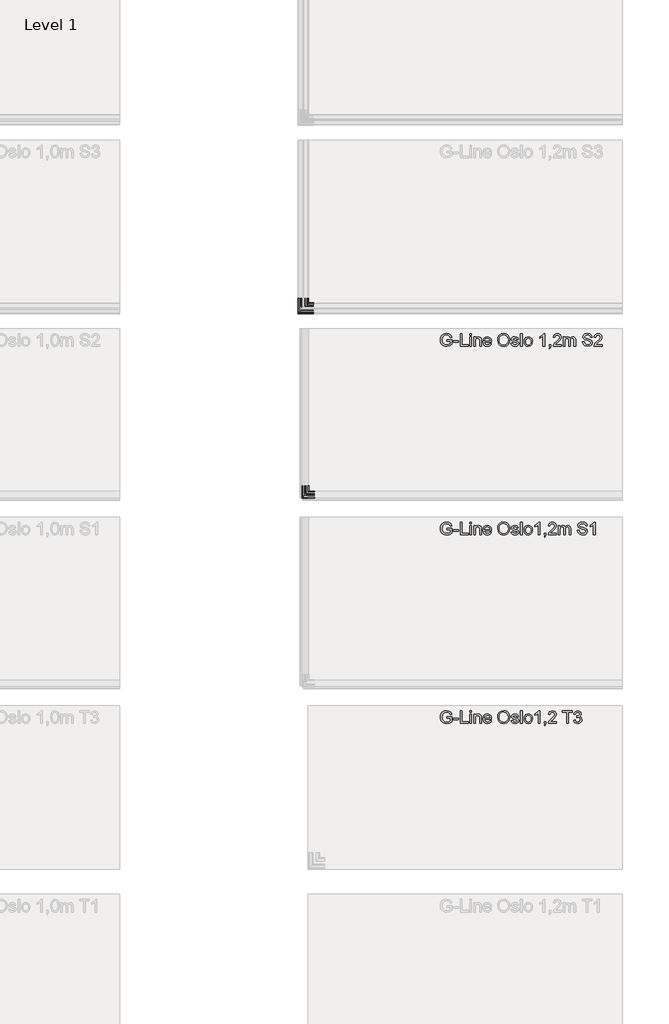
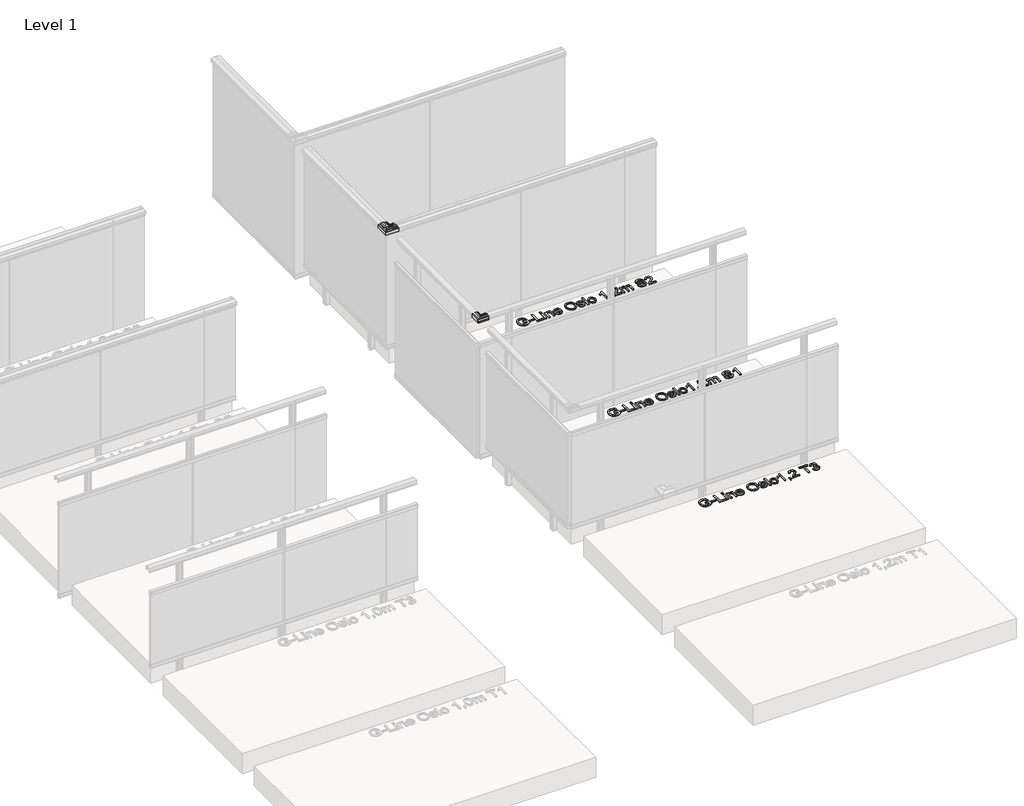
# One storey, part 62 of 66: 5 proxies.
"""IFC4 building model written with IfcOpenShell, lengths in millimetres."""

from ifc_helpers import new_model, si_unit, origin, origin_with_axes, place, context, project, spatial, polyline, outline, extrude, transform, mapped, element, save
from components import generic_models_029e0633, generic_models_224f447f

model = new_model("IFC4")

# Units and contexts
model_context = context("Model", 3, world=origin())
ifc_project = project(units=[si_unit("LENGTHUNIT", "METRE", prefix="MILLI")], contexts=[model_context])

# Site, building, storey
site = spatial("IfcSite", under=ifc_project)
building = spatial("IfcBuilding", under=site)
storey = spatial("IfcBuildingStorey", under=building, Name="Level 1", Elevation=0.0)

# Proxies
placement = place(None, origin())
generic_models_shape = generic_models_029e0633(model_context)
element("IfcBuildingElementProxy", 1, Name="Innore top rail 51x43 corner element : Innore top rail 51x43 element", ObjectType="Innore top rail 51x43 corner element : Innore top rail 51x43 element", at=placement, inside=storey, context=model_context, shape_type="MappedRepresentation", body=[
    mapped(generic_models_shape, transform((8483.61192, 14108.9644424, 1200.0), x_axis=(0.0, -1.0, 0.0), y_axis=(1.0, 0.0, 0.0), z_axis=(0.0, 0.0, 1.0))),
])
generic_models_2_shape = generic_models_224f447f(model_context)
element("IfcBuildingElementProxy", 2, Name="Innore top rail 81x35 corner element : Innore top rail 81x35 element", ObjectType="Innore top rail 81x35 corner element : Innore top rail 81x35 element", at=placement, inside=storey, context=model_context, shape_type="MappedRepresentation", body=[
    mapped(generic_models_2_shape, transform((8465.4055183, 15591.2640182, 1200.0), x_axis=(0.0, -1.0, 0.0), y_axis=(1.0, 0.0, 0.0), z_axis=(0.0, 0.0, 1.0))),
])
element("IfcBuildingElementProxy", 3, Name="100mm Arial", ObjectType="100mm Arial", at=placement, inside=storey, context=model_context, shape_type="SweptSolid", body=[
    extrude(outline(polyline([(9608.6537991, 12329.5293902), (9608.6537991, 12342.086429), (9649.4641751, 12342.086429), (9649.4641751, 12304.53794), (9629.3165045, 12292.6921398), (9608.0161369, 12288.7190142), (9593.9293222, 12290.2978411), (9581.1975395, 12295.0343218), (9570.6209321, 12302.7629094), (9562.9996435, 12313.318057), (9558.3919215, 12325.979329), (9556.8560141, 12340.0262898), (9558.3857901, 12354.1744182), (9562.975118, 12367.3353966), (9570.4339255, 12378.3749221), (9580.5721401, 12386.158692), (9592.9207124, 12390.7756111), (9607.0105928, 12392.3145841), (9626.6554914, 12388.7461287), (9640.4265407, 12378.8133149), (9648.0171726, 12362.1973114), (9636.4411524, 12358.9354244), (9630.714456, 12370.5482327), (9620.928795, 12377.243685), (9606.8143891, 12379.7575453), (9590.7379459, 12377.0474813), (9579.7995879, 12369.935096), (9573.3371275, 12360.2597996), (9569.4130529, 12340.5413246), (9574.1342052, 12318.6523459), (9587.8684663, 12305.5557469), (9607.0105928, 12301.276053), (9624.190682, 12304.5011518), (9636.9071363, 12311.3805451), (9636.9071363, 12329.5293902), (9608.6537991, 12329.5293902)])), origin_with_axes(), (0.0, 0.0, 1.0), 10.0),
    extrude(outline(polyline([(9662.0212138, 12320.1116112), (9662.0212138, 12332.6686499), (9701.26196, 12332.6686499), (9701.26196, 12320.1116112), (9662.0212138, 12320.1116112)])), origin_with_axes(), (0.0, 0.0, 1.0), 10.0),
    extrude(outline(polyline([(9716.9582584, 12290.2886441), (9716.9582584, 12390.7449542), (9729.5152972, 12390.7449542), (9729.5152972, 12302.8456829), (9779.7434523, 12302.8456829), (9779.7434523, 12290.2886441), (9716.9582584, 12290.2886441)])), origin_with_axes(), (0.0, 0.0, 1.0), 10.0),
    extrude(outline(polyline([(9792.3004911, 12378.1879155), (9792.3004911, 12390.7449542), (9804.8575298, 12390.7449542), (9804.8575298, 12378.1879155), (9792.3004911, 12378.1879155)])), origin_with_axes(), (0.0, 0.0, 1.0), 10.0),
    extrude(outline(polyline([(9792.3004911, 12290.2886441), (9792.3004911, 12364.0612468), (9804.8575298, 12364.0612468), (9804.8575298, 12290.2886441), (9792.3004911, 12290.2886441)])), origin_with_axes(), (0.0, 0.0, 1.0), 10.0),
    extrude(outline(polyline([(9823.693088, 12290.2886441), (9823.693088, 12364.0612468), (9836.2501268, 12364.0612468), (9836.2501268, 12353.760551), (9845.8518468, 12362.6632953), (9858.9607086, 12365.6308767), (9870.8187716, 12363.2396437), (9878.9121755, 12356.9611243), (9882.6768345, 12347.7272863), (9883.3390221, 12335.5871804), (9883.3390221, 12290.2886441), (9870.7819834, 12290.2886441), (9870.7819834, 12333.8949232), (9869.3349809, 12345.0049595), (9864.2214211, 12350.8788087), (9855.6007197, 12353.0738379), (9841.9768231, 12348.1442192), (9837.6818009, 12341.0011771), (9836.2501268, 12329.4312884), (9836.2501268, 12290.2886441), (9823.693088, 12290.2886441)])), origin_with_axes(), (0.0, 0.0, 1.0), 10.0),
    extrude(outline(polyline([(9952.2555826, 12312.2634619), (9964.5673667, 12310.6938321), (9960.1313229, 12301.4170744), (9953.0526602, 12294.4824988), (9943.490794, 12290.1598854), (9931.6051399, 12288.7190142), (9916.871466, 12291.2052834), (9905.5345692, 12298.6640908), (9898.305688, 12310.6110586), (9895.8960609, 12326.5618088), (9898.3302134, 12343.0490536), (9905.632671, 12355.3792318), (9916.8162837, 12363.0679655), (9930.8939014, 12365.6308767), (9944.5331263, 12363.0740968), (9955.4316305, 12355.4037572), (9962.5777382, 12343.0981045), (9964.9597741, 12326.6353852), (9964.8861977, 12323.2508709), (9908.4530997, 12323.2508709), (9910.6266691, 12313.8514859), (9915.6758495, 12306.9414357), (9922.9629787, 12302.6923987), (9931.8503946, 12301.276053), (9944.1621787, 12303.9002779), (9952.2555826, 12312.2634619)]), holes=[polyline([(9908.4530997, 12335.8079096), (9952.4027354, 12335.8079096), (9947.3750148, 12347.187726), (9940.0541631, 12351.6023099), (9930.8448504, 12353.0738379), (9915.3815439, 12348.3772111), (9910.5163045, 12342.8865723), (9908.4530997, 12335.8079096)])]), origin_with_axes(), (0.0, 0.0, 1.0), 10.0),
    extrude(outline(polyline([(10013.6182994, 12339.192424), (10016.9660255, 12361.4063651), (10027.009204, 12378.2124409), (10042.3437518, 12388.7890483), (10061.5655861, 12392.3145841), (10074.7418929, 12390.6591151), (10086.5570363, 12385.6927082), (10096.3672228, 12377.7648512), (10103.528659, 12367.225032), (10107.9064547, 12354.5821541), (10109.36572, 12340.3451209), (10107.8298126, 12325.9180153), (10103.2220907, 12313.0973278), (10095.7970057, 12302.5391145), (10085.8090095, 12294.8994318), (10074.0950337, 12290.2641186), (10061.4920097, 12288.7190142), (10048.1133678, 12290.4265998), (10036.2307793, 12295.5493566), (10026.4451183, 12303.6243664), (10019.3572585, 12314.188711), (10013.6182994, 12339.192424)]), holes=[polyline([(10026.1753381, 12339.0697966), (10028.6861327, 12323.3551041), (10036.2185166, 12311.3805451), (10047.540085, 12303.802176), (10061.4184333, 12301.276053), (10075.4991166, 12303.8267015), (10086.8390791, 12311.478647), (10094.3162807, 12323.8210879), (10096.8086812, 12340.4432228), (10092.5412501, 12361.1672418), (10080.0700504, 12374.8892402), (10061.6391625, 12379.7575453), (10048.1317619, 12377.4122976), (10036.6477123, 12370.3765544), (10028.7934317, 12357.8593695), (10026.1753381, 12339.0697966)])]), origin_with_axes(), (0.0, 0.0, 1.0), 10.0),
    extrude(outline(polyline([(10120.3531289, 12312.2634619), (10132.9101677, 12313.8330918), (10138.7227032, 12304.5134146), (10152.0400314, 12301.276053), (10164.8423248, 12304.2436344), (10169.0116541, 12311.2088669), (10164.8177994, 12316.8497241), (10151.8928786, 12320.4304422), (10132.9837441, 12326.5740715), (10124.7309246, 12333.7477704), (10121.9227587, 12343.876788), (10124.1791016, 12353.2332535), (10130.3349937, 12360.3824269), (10138.318033, 12364.098035), (10149.1215009, 12365.6308767), (10164.4008665, 12363.1660673), (10174.1129511, 12356.4951405), (10178.4294332, 12345.2256887), (10165.8723944, 12343.6560589), (10161.1512422, 12350.5845031), (10150.1025196, 12353.0738379), (10138.0850411, 12350.6948677), (10134.4797975, 12345.1521123), (10135.975851, 12341.4978178), (10140.660215, 12338.7264401), (10151.4759457, 12336.0531643), (10169.9068336, 12330.1425269), (10178.4662214, 12323.4470746), (10181.5686929, 12312.5332421), (10177.9266611, 12300.5157635), (10167.4174988, 12291.7969603), (10151.8683531, 12288.7190142), (10139.2070811, 12290.202805), (10129.9671117, 12294.6541771), (10123.7989569, 12302.0240797), (10120.3531289, 12312.2634619)])), origin_with_axes(), (0.0, 0.0, 1.0), 10.0),
    extrude(outline(polyline([(10195.6953615, 12290.2886441), (10195.6953615, 12390.7449542), (10208.2524003, 12390.7449542), (10208.2524003, 12290.2886441), (10195.6953615, 12290.2886441)])), origin_with_axes(), (0.0, 0.0, 1.0), 10.0),
    extrude(outline(polyline([(10223.9486987, 12327.1749455), (10226.6648941, 12344.9620399), (10234.8134803, 12357.4638964), (10244.8811843, 12363.5891316), (10256.935451, 12365.6308767), (10270.1270862, 12363.1446075), (10280.6638397, 12355.6858001), (10287.5708241, 12343.8430655), (10289.8731523, 12328.2050151), (10285.8019249, 12305.8623152), (10273.9438619, 12293.2194373), (10256.935451, 12288.7190142), (10243.5844002, 12291.1960863), (10233.0599095, 12298.6273026), (10226.2265014, 12310.7183575), (10223.9486987, 12327.1749455)]), holes=[polyline([(10236.5057375, 12327.1994709), (10237.9588714, 12315.834983), (10242.318273, 12307.7385134), (10248.8788353, 12302.8916681), (10256.935451, 12301.276053), (10264.9552785, 12302.9008652), (10271.503578, 12307.7753016), (10275.8629796, 12315.9790701), (10277.3161135, 12327.5918784), (10275.8537826, 12338.6252726), (10271.4667898, 12346.6113775), (10264.9092932, 12351.4582228), (10256.935451, 12353.0738379), (10248.8788353, 12351.4643542), (10242.318273, 12346.635903), (10237.9588714, 12338.5578275), (10236.5057375, 12327.1994709)])]), origin_with_axes(), (0.0, 0.0, 1.0), 10.0),
    extrude(outline(polyline([(10347.9494566, 12290.2886441), (10335.3924178, 12290.2886441), (10335.3924178, 12368.5739327), (10323.4975666, 12360.100384), (10310.2783403, 12353.760551), (10310.2783403, 12365.6308767), (10328.6847028, 12377.3785751), (10339.8560527, 12390.7449542), (10347.9494566, 12390.7449542), (10347.9494566, 12290.2886441)])), origin_with_axes(), (0.0, 0.0, 1.0), 10.0),
    extrude(outline(polyline([(10384.050943, 12290.2886441), (10384.050943, 12302.8456829), (10396.6079818, 12302.8456829), (10396.6079818, 12290.2886441), (10394.3516389, 12277.4495625), (10387.1902027, 12269.8834561), (10384.050943, 12274.5923456), (10388.6617307, 12280.0124737), (10390.304937, 12290.2886441), (10384.050943, 12290.2886441)])), origin_with_axes(), (0.0, 0.0, 1.0), 10.0),
    extrude(outline(polyline([(10481.3679935, 12302.8456829), (10481.3679935, 12290.2886441), (10415.44354, 12290.2886441), (10416.7924406, 12298.9461337), (10424.4198606, 12312.2757247), (10440.1406846, 12326.8315889), (10461.8211968, 12347.7518117), (10467.2413249, 12361.9765822), (10462.1277651, 12373.4912887), (10448.7736487, 12378.1879155), (10434.8554466, 12373.6016533), (10429.5702086, 12360.9219872), (10417.0131698, 12362.491617), (10420.0573933, 12374.6378542), (10426.6394153, 12383.5099417), (10436.4158794, 12388.9362011), (10449.0434289, 12390.7449542), (10461.7629488, 12388.733866), (10471.5210188, 12382.7006013), (10477.7290274, 12373.6874924), (10479.7983636, 12362.7368717), (10477.5665462, 12350.8297578), (10470.1475926, 12338.5179737), (10452.1581631, 12321.313359), (10437.7126634, 12309.2345668), (10432.0472807, 12302.8456829), (10481.3679935, 12302.8456829)])), origin_with_axes(), (0.0, 0.0, 1.0), 10.0),
    extrude(outline(polyline([(10562.9887455, 12290.2886441), (10562.9887455, 12378.1879155), (10530.0265187, 12378.1879155), (10530.0265187, 12390.7449542), (10608.508011, 12390.7449542), (10608.508011, 12378.1879155), (10575.5457843, 12378.1879155), (10575.5457843, 12290.2886441), (10562.9887455, 12290.2886441)])), origin_with_axes(), (0.0, 0.0, 1.0), 10.0),
    extrude(outline(polyline([(10617.9257901, 12316.9723515), (10630.4828289, 12318.5419813), (10637.4112731, 12305.322755), (10650.3729821, 12301.276053), (10658.9814208, 12302.6678732), (10665.6278221, 12306.8433339), (10671.2932049, 12320.626646), (10665.6768731, 12333.6128804), (10651.4030517, 12338.7509656), (10642.5984092, 12337.3775395), (10643.9963608, 12349.9345782), (10646.0074491, 12349.7874254), (10660.256745, 12353.392669), (10665.0024228, 12357.9666685), (10666.5843153, 12364.4781798), (10661.9980531, 12374.300629), (10650.1767783, 12378.1879155), (10638.2083508, 12374.2638408), (10632.0524587, 12362.491617), (10619.49542, 12364.0612468), (10623.192634, 12375.33683), (10629.7715903, 12383.7551963), (10638.7724365, 12388.9975148), (10649.73532, 12390.7449542), (10664.8797954, 12387.2991262), (10675.4747969, 12377.8813471), (10679.1413541, 12365.2139438), (10675.6587379, 12353.6379237), (10665.358042, 12345.3237906), (10679.0432522, 12336.7398773), (10683.8502436, 12320.4059168), (10681.4467479, 12308.167709), (10674.2362608, 12297.9405896), (10663.3530851, 12291.0244081), (10649.9315237, 12288.7190142), (10637.7914178, 12290.6871829), (10627.9076549, 12296.5916889), (10621.034393, 12305.6231919), (10617.9257901, 12316.9723515)])), origin_with_axes(), (0.0, 0.0, 1.0), 10.0),
])
element("IfcBuildingElementProxy", 4, Name="100mm Arial", ObjectType="100mm Arial", at=placement, inside=storey, context=model_context, shape_type="SweptSolid", body=[
    extrude(outline(polyline([(9608.6537991, 13829.5293902), (9608.6537991, 13842.086429), (9649.4641751, 13842.086429), (9649.4641751, 13804.53794), (9629.3165045, 13792.6921398), (9608.0161369, 13788.7190142), (9593.9293222, 13790.2978411), (9581.1975395, 13795.0343218), (9570.6209321, 13802.7629094), (9562.9996435, 13813.318057), (9558.3919215, 13825.979329), (9556.8560141, 13840.0262898), (9558.3857901, 13854.1744182), (9562.975118, 13867.3353966), (9570.4339255, 13878.3749221), (9580.5721401, 13886.158692), (9592.9207124, 13890.7756111), (9607.0105928, 13892.3145841), (9626.6554914, 13888.7461287), (9640.4265407, 13878.8133149), (9648.0171726, 13862.1973114), (9636.4411524, 13858.9354244), (9630.714456, 13870.5482327), (9620.928795, 13877.243685), (9606.8143891, 13879.7575453), (9590.7379459, 13877.0474813), (9579.7995879, 13869.935096), (9573.3371275, 13860.2597996), (9569.4130529, 13840.5413246), (9574.1342052, 13818.6523459), (9587.8684663, 13805.5557469), (9607.0105928, 13801.276053), (9624.190682, 13804.5011518), (9636.9071363, 13811.3805451), (9636.9071363, 13829.5293902), (9608.6537991, 13829.5293902)])), origin_with_axes(), (0.0, 0.0, 1.0), 10.0),
    extrude(outline(polyline([(9662.0212138, 13820.1116112), (9662.0212138, 13832.6686499), (9701.26196, 13832.6686499), (9701.26196, 13820.1116112), (9662.0212138, 13820.1116112)])), origin_with_axes(), (0.0, 0.0, 1.0), 10.0),
    extrude(outline(polyline([(9716.9582584, 13790.2886441), (9716.9582584, 13890.7449542), (9729.5152972, 13890.7449542), (9729.5152972, 13802.8456829), (9779.7434523, 13802.8456829), (9779.7434523, 13790.2886441), (9716.9582584, 13790.2886441)])), origin_with_axes(), (0.0, 0.0, 1.0), 10.0),
    extrude(outline(polyline([(9792.3004911, 13878.1879155), (9792.3004911, 13890.7449542), (9804.8575298, 13890.7449542), (9804.8575298, 13878.1879155), (9792.3004911, 13878.1879155)])), origin_with_axes(), (0.0, 0.0, 1.0), 10.0),
    extrude(outline(polyline([(9792.3004911, 13790.2886441), (9792.3004911, 13864.0612468), (9804.8575298, 13864.0612468), (9804.8575298, 13790.2886441), (9792.3004911, 13790.2886441)])), origin_with_axes(), (0.0, 0.0, 1.0), 10.0),
    extrude(outline(polyline([(9823.693088, 13790.2886441), (9823.693088, 13864.0612468), (9836.2501268, 13864.0612468), (9836.2501268, 13853.760551), (9845.8518468, 13862.6632953), (9858.9607086, 13865.6308767), (9870.8187716, 13863.2396437), (9878.9121755, 13856.9611243), (9882.6768345, 13847.7272863), (9883.3390221, 13835.5871804), (9883.3390221, 13790.2886441), (9870.7819834, 13790.2886441), (9870.7819834, 13833.8949232), (9869.3349809, 13845.0049595), (9864.2214211, 13850.8788087), (9855.6007197, 13853.0738379), (9841.9768231, 13848.1442192), (9837.6818009, 13841.0011771), (9836.2501268, 13829.4312884), (9836.2501268, 13790.2886441), (9823.693088, 13790.2886441)])), origin_with_axes(), (0.0, 0.0, 1.0), 10.0),
    extrude(outline(polyline([(9952.2555826, 13812.2634619), (9964.5673667, 13810.6938321), (9960.1313229, 13801.4170744), (9953.0526602, 13794.4824988), (9943.490794, 13790.1598854), (9931.6051399, 13788.7190142), (9916.871466, 13791.2052834), (9905.5345692, 13798.6640908), (9898.305688, 13810.6110586), (9895.8960609, 13826.5618088), (9898.3302134, 13843.0490536), (9905.632671, 13855.3792318), (9916.8162837, 13863.0679655), (9930.8939014, 13865.6308767), (9944.5331263, 13863.0740968), (9955.4316305, 13855.4037572), (9962.5777382, 13843.0981045), (9964.9597741, 13826.6353852), (9964.8861977, 13823.2508709), (9908.4530997, 13823.2508709), (9910.6266691, 13813.8514859), (9915.6758495, 13806.9414357), (9922.9629787, 13802.6923987), (9931.8503946, 13801.276053), (9944.1621787, 13803.9002779), (9952.2555826, 13812.2634619)]), holes=[polyline([(9908.4530997, 13835.8079096), (9952.4027354, 13835.8079096), (9947.3750148, 13847.187726), (9940.0541631, 13851.6023099), (9930.8448504, 13853.0738379), (9915.3815439, 13848.3772111), (9910.5163045, 13842.8865723), (9908.4530997, 13835.8079096)])]), origin_with_axes(), (0.0, 0.0, 1.0), 10.0),
    extrude(outline(polyline([(10013.6182994, 13839.192424), (10016.9660255, 13861.4063651), (10027.009204, 13878.2124409), (10042.3437518, 13888.7890483), (10061.5655861, 13892.3145841), (10074.7418929, 13890.6591151), (10086.5570363, 13885.6927082), (10096.3672228, 13877.7648512), (10103.528659, 13867.225032), (10107.9064547, 13854.5821541), (10109.36572, 13840.3451209), (10107.8298126, 13825.9180153), (10103.2220907, 13813.0973278), (10095.7970057, 13802.5391145), (10085.8090095, 13794.8994318), (10074.0950337, 13790.2641186), (10061.4920097, 13788.7190142), (10048.1133678, 13790.4265998), (10036.2307793, 13795.5493566), (10026.4451183, 13803.6243664), (10019.3572585, 13814.188711), (10013.6182994, 13839.192424)]), holes=[polyline([(10026.1753381, 13839.0697966), (10028.6861327, 13823.3551041), (10036.2185166, 13811.3805451), (10047.540085, 13803.802176), (10061.4184333, 13801.276053), (10075.4991166, 13803.8267015), (10086.8390791, 13811.478647), (10094.3162807, 13823.8210879), (10096.8086812, 13840.4432228), (10092.5412501, 13861.1672418), (10080.0700504, 13874.8892402), (10061.6391625, 13879.7575453), (10048.1317619, 13877.4122976), (10036.6477123, 13870.3765544), (10028.7934317, 13857.8593695), (10026.1753381, 13839.0697966)])]), origin_with_axes(), (0.0, 0.0, 1.0), 10.0),
    extrude(outline(polyline([(10120.3531289, 13812.2634619), (10132.9101677, 13813.8330918), (10138.7227032, 13804.5134146), (10152.0400314, 13801.276053), (10164.8423248, 13804.2436344), (10169.0116541, 13811.2088669), (10164.8177994, 13816.8497241), (10151.8928786, 13820.4304422), (10132.9837441, 13826.5740715), (10124.7309246, 13833.7477704), (10121.9227587, 13843.876788), (10124.1791016, 13853.2332535), (10130.3349937, 13860.3824269), (10138.318033, 13864.098035), (10149.1215009, 13865.6308767), (10164.4008665, 13863.1660673), (10174.1129511, 13856.4951405), (10178.4294332, 13845.2256887), (10165.8723944, 13843.6560589), (10161.1512422, 13850.5845031), (10150.1025196, 13853.0738379), (10138.0850411, 13850.6948677), (10134.4797975, 13845.1521123), (10135.975851, 13841.4978178), (10140.660215, 13838.7264401), (10151.4759457, 13836.0531643), (10169.9068336, 13830.1425269), (10178.4662214, 13823.4470746), (10181.5686929, 13812.5332421), (10177.9266611, 13800.5157635), (10167.4174988, 13791.7969603), (10151.8683531, 13788.7190142), (10139.2070811, 13790.202805), (10129.9671117, 13794.6541771), (10123.7989569, 13802.0240797), (10120.3531289, 13812.2634619)])), origin_with_axes(), (0.0, 0.0, 1.0), 10.0),
    extrude(outline(polyline([(10195.6953615, 13790.2886441), (10195.6953615, 13890.7449542), (10208.2524003, 13890.7449542), (10208.2524003, 13790.2886441), (10195.6953615, 13790.2886441)])), origin_with_axes(), (0.0, 0.0, 1.0), 10.0),
    extrude(outline(polyline([(10223.9486987, 13827.1749455), (10226.6648941, 13844.9620399), (10234.8134803, 13857.4638964), (10244.8811843, 13863.5891316), (10256.935451, 13865.6308767), (10270.1270862, 13863.1446075), (10280.6638397, 13855.6858001), (10287.5708241, 13843.8430655), (10289.8731523, 13828.2050151), (10285.8019249, 13805.8623152), (10273.9438619, 13793.2194373), (10256.935451, 13788.7190142), (10243.5844002, 13791.1960863), (10233.0599095, 13798.6273026), (10226.2265014, 13810.7183575), (10223.9486987, 13827.1749455)]), holes=[polyline([(10236.5057375, 13827.1994709), (10237.9588714, 13815.834983), (10242.318273, 13807.7385134), (10248.8788353, 13802.8916681), (10256.935451, 13801.276053), (10264.9552785, 13802.9008652), (10271.503578, 13807.7753016), (10275.8629796, 13815.9790701), (10277.3161135, 13827.5918784), (10275.8537826, 13838.6252726), (10271.4667898, 13846.6113775), (10264.9092932, 13851.4582228), (10256.935451, 13853.0738379), (10248.8788353, 13851.4643542), (10242.318273, 13846.635903), (10237.9588714, 13838.5578275), (10236.5057375, 13827.1994709)])]), origin_with_axes(), (0.0, 0.0, 1.0), 10.0),
    extrude(outline(polyline([(10347.9494566, 13790.2886441), (10335.3924178, 13790.2886441), (10335.3924178, 13868.5739327), (10323.4975666, 13860.100384), (10310.2783403, 13853.760551), (10310.2783403, 13865.6308767), (10328.6847028, 13877.3785751), (10339.8560527, 13890.7449542), (10347.9494566, 13890.7449542), (10347.9494566, 13790.2886441)])), origin_with_axes(), (0.0, 0.0, 1.0), 10.0),
    extrude(outline(polyline([(10384.050943, 13790.2886441), (10384.050943, 13802.8456829), (10396.6079818, 13802.8456829), (10396.6079818, 13790.2886441), (10394.3516389, 13777.4495625), (10387.1902027, 13769.8834561), (10384.050943, 13774.5923456), (10388.6617307, 13780.0124737), (10390.304937, 13790.2886441), (10384.050943, 13790.2886441)])), origin_with_axes(), (0.0, 0.0, 1.0), 10.0),
    extrude(outline(polyline([(10481.3679935, 13802.8456829), (10481.3679935, 13790.2886441), (10415.44354, 13790.2886441), (10416.7924406, 13798.9461337), (10424.4198606, 13812.2757247), (10440.1406846, 13826.8315889), (10461.8211968, 13847.7518117), (10467.2413249, 13861.9765822), (10462.1277651, 13873.4912887), (10448.7736487, 13878.1879155), (10434.8554466, 13873.6016533), (10429.5702086, 13860.9219872), (10417.0131698, 13862.491617), (10420.0573933, 13874.6378542), (10426.6394153, 13883.5099417), (10436.4158794, 13888.9362011), (10449.0434289, 13890.7449542), (10461.7629488, 13888.733866), (10471.5210188, 13882.7006013), (10477.7290274, 13873.6874924), (10479.7983636, 13862.7368717), (10477.5665462, 13850.8297578), (10470.1475926, 13838.5179737), (10452.1581631, 13821.313359), (10437.7126634, 13809.2345668), (10432.0472807, 13802.8456829), (10481.3679935, 13802.8456829)])), origin_with_axes(), (0.0, 0.0, 1.0), 10.0),
    extrude(outline(polyline([(10497.064292, 13790.2886441), (10497.064292, 13864.0612468), (10509.6213307, 13864.0612468), (10509.6213307, 13851.921141), (10518.2542949, 13861.8662176), (10530.5415535, 13865.6308767), (10543.1231178, 13861.7926412), (10550.0392993, 13851.0382242), (10559.8372231, 13861.9827136), (10572.2103208, 13865.6308767), (10581.6495597, 13864.1133635), (10588.6301206, 13859.5608238), (10592.9435369, 13851.8506303), (10594.3813424, 13840.8601557), (10594.3813424, 13790.2886441), (10581.8243036, 13790.2886441), (10581.8243036, 13835.4645531), (10580.659344, 13845.94919), (10576.4409638, 13851.1118006), (10569.2672649, 13853.0738379), (10556.9186926, 13848.0461173), (10553.2306756, 13841.5039492), (10552.0013366, 13831.9328859), (10552.0013366, 13790.2886441), (10539.4442978, 13790.2886441), (10539.4442978, 13836.8625047), (10536.53803, 13849.027136), (10527.0098864, 13853.0738379), (10517.7147346, 13850.3760366), (10511.5343171, 13842.4788365), (10509.6213307, 13827.4937765), (10509.6213307, 13790.2886441), (10497.064292, 13790.2886441)])), origin_with_axes(), (0.0, 0.0, 1.0), 10.0),
    extrude(outline(polyline([(10649.318387, 13824.8205007), (10661.8754258, 13824.8205007), (10665.9221277, 13812.2511992), (10675.8058907, 13804.3049481), (10690.864527, 13801.276053), (10703.9856515, 13803.5691841), (10712.4592001, 13809.872229), (10715.2428406, 13818.2967266), (10713.1581759, 13826.1326131), (10704.6233136, 13831.8347841), (10686.3395785, 13836.6295127), (10666.6578917, 13842.822193), (10655.9770511, 13852.1663957), (10652.4576467, 13864.649858), (10656.810917, 13878.8623658), (10669.5273713, 13888.8932815), (10688.1422003, 13892.3145841), (10708.007828, 13888.733866), (10721.2515798, 13878.2124409), (10726.2302495, 13862.491617), (10713.6732107, 13862.491617), (10711.3678169, 13869.984147), (10706.5608255, 13875.3920123), (10688.6327096, 13879.7575453), (10670.6555427, 13875.4410632), (10665.0146855, 13865.01774), (10669.0123365, 13856.3111995), (10689.5156264, 13849.2969161), (10711.7356989, 13842.9938713), (10723.8880674, 13832.8158027), (10727.7998793, 13818.6155577), (10723.2994563, 13803.5937096), (10710.35001, 13792.6308261), (10691.3550363, 13788.7190142), (10668.9264974, 13792.9373944), (10654.7385151, 13805.641586), (10649.318387, 13824.8205007)])), origin_with_axes(), (0.0, 0.0, 1.0), 10.0),
    extrude(outline(polyline([(10789.0154433, 13790.2886441), (10776.4584046, 13790.2886441), (10776.4584046, 13868.5739327), (10764.5635534, 13860.100384), (10751.344327, 13853.760551), (10751.344327, 13865.6308767), (10769.7506895, 13877.3785751), (10780.9220394, 13890.7449542), (10789.0154433, 13890.7449542), (10789.0154433, 13790.2886441)])), origin_with_axes(), (0.0, 0.0, 1.0), 10.0),
])
element("IfcBuildingElementProxy", 5, Name="100mm Arial", ObjectType="100mm Arial", at=placement, inside=storey, context=model_context, shape_type="SweptSolid", body=[
    extrude(outline(polyline([(9608.6537991, 15329.5293902), (9608.6537991, 15342.086429), (9649.4641751, 15342.086429), (9649.4641751, 15304.53794), (9629.3165045, 15292.6921398), (9608.0161369, 15288.7190142), (9593.9293222, 15290.2978411), (9581.1975395, 15295.0343218), (9570.6209321, 15302.7629094), (9562.9996435, 15313.318057), (9558.3919215, 15325.979329), (9556.8560141, 15340.0262898), (9558.3857901, 15354.1744182), (9562.975118, 15367.3353966), (9570.4339255, 15378.3749221), (9580.5721401, 15386.158692), (9592.9207124, 15390.7756111), (9607.0105928, 15392.3145841), (9626.6554914, 15388.7461287), (9640.4265407, 15378.8133149), (9648.0171726, 15362.1973114), (9636.4411524, 15358.9354244), (9630.714456, 15370.5482327), (9620.928795, 15377.243685), (9606.8143891, 15379.7575453), (9590.7379459, 15377.0474813), (9579.7995879, 15369.935096), (9573.3371275, 15360.2597996), (9569.4130529, 15340.5413246), (9574.1342052, 15318.6523459), (9587.8684663, 15305.5557469), (9607.0105928, 15301.276053), (9624.190682, 15304.5011518), (9636.9071363, 15311.3805451), (9636.9071363, 15329.5293902), (9608.6537991, 15329.5293902)])), origin_with_axes(), (0.0, 0.0, 1.0), 10.0),
    extrude(outline(polyline([(9662.0212138, 15320.1116112), (9662.0212138, 15332.6686499), (9701.26196, 15332.6686499), (9701.26196, 15320.1116112), (9662.0212138, 15320.1116112)])), origin_with_axes(), (0.0, 0.0, 1.0), 10.0),
    extrude(outline(polyline([(9716.9582584, 15290.2886441), (9716.9582584, 15390.7449542), (9729.5152972, 15390.7449542), (9729.5152972, 15302.8456829), (9779.7434523, 15302.8456829), (9779.7434523, 15290.2886441), (9716.9582584, 15290.2886441)])), origin_with_axes(), (0.0, 0.0, 1.0), 10.0),
    extrude(outline(polyline([(9792.3004911, 15378.1879155), (9792.3004911, 15390.7449542), (9804.8575298, 15390.7449542), (9804.8575298, 15378.1879155), (9792.3004911, 15378.1879155)])), origin_with_axes(), (0.0, 0.0, 1.0), 10.0),
    extrude(outline(polyline([(9792.3004911, 15290.2886441), (9792.3004911, 15364.0612468), (9804.8575298, 15364.0612468), (9804.8575298, 15290.2886441), (9792.3004911, 15290.2886441)])), origin_with_axes(), (0.0, 0.0, 1.0), 10.0),
    extrude(outline(polyline([(9823.693088, 15290.2886441), (9823.693088, 15364.0612468), (9836.2501268, 15364.0612468), (9836.2501268, 15353.760551), (9845.8518468, 15362.6632953), (9858.9607086, 15365.6308767), (9870.8187716, 15363.2396437), (9878.9121755, 15356.9611243), (9882.6768345, 15347.7272863), (9883.3390221, 15335.5871804), (9883.3390221, 15290.2886441), (9870.7819834, 15290.2886441), (9870.7819834, 15333.8949232), (9869.3349809, 15345.0049595), (9864.2214211, 15350.8788087), (9855.6007197, 15353.0738379), (9841.9768231, 15348.1442192), (9837.6818009, 15341.0011771), (9836.2501268, 15329.4312884), (9836.2501268, 15290.2886441), (9823.693088, 15290.2886441)])), origin_with_axes(), (0.0, 0.0, 1.0), 10.0),
    extrude(outline(polyline([(9952.2555826, 15312.2634619), (9964.5673667, 15310.6938321), (9960.1313229, 15301.4170744), (9953.0526602, 15294.4824988), (9943.490794, 15290.1598854), (9931.6051399, 15288.7190142), (9916.871466, 15291.2052834), (9905.5345692, 15298.6640908), (9898.305688, 15310.6110586), (9895.8960609, 15326.5618088), (9898.3302134, 15343.0490536), (9905.632671, 15355.3792318), (9916.8162837, 15363.0679655), (9930.8939014, 15365.6308767), (9944.5331263, 15363.0740968), (9955.4316305, 15355.4037572), (9962.5777382, 15343.0981045), (9964.9597741, 15326.6353852), (9964.8861977, 15323.2508709), (9908.4530997, 15323.2508709), (9910.6266691, 15313.8514859), (9915.6758495, 15306.9414357), (9922.9629787, 15302.6923987), (9931.8503946, 15301.276053), (9944.1621787, 15303.9002779), (9952.2555826, 15312.2634619)]), holes=[polyline([(9908.4530997, 15335.8079096), (9952.4027354, 15335.8079096), (9947.3750148, 15347.187726), (9940.0541631, 15351.6023099), (9930.8448504, 15353.0738379), (9915.3815439, 15348.3772111), (9910.5163045, 15342.8865723), (9908.4530997, 15335.8079096)])]), origin_with_axes(), (0.0, 0.0, 1.0), 10.0),
    extrude(outline(polyline([(10013.6182994, 15339.192424), (10016.9660255, 15361.4063651), (10027.009204, 15378.2124409), (10042.3437518, 15388.7890483), (10061.5655861, 15392.3145841), (10074.7418929, 15390.6591151), (10086.5570363, 15385.6927082), (10096.3672228, 15377.7648512), (10103.528659, 15367.225032), (10107.9064547, 15354.5821541), (10109.36572, 15340.3451209), (10107.8298126, 15325.9180153), (10103.2220907, 15313.0973278), (10095.7970057, 15302.5391145), (10085.8090095, 15294.8994318), (10074.0950337, 15290.2641186), (10061.4920097, 15288.7190142), (10048.1133678, 15290.4265998), (10036.2307793, 15295.5493566), (10026.4451183, 15303.6243664), (10019.3572585, 15314.188711), (10013.6182994, 15339.192424)]), holes=[polyline([(10026.1753381, 15339.0697966), (10028.6861327, 15323.3551041), (10036.2185166, 15311.3805451), (10047.540085, 15303.802176), (10061.4184333, 15301.276053), (10075.4991166, 15303.8267015), (10086.8390791, 15311.478647), (10094.3162807, 15323.8210879), (10096.8086812, 15340.4432228), (10092.5412501, 15361.1672418), (10080.0700504, 15374.8892402), (10061.6391625, 15379.7575453), (10048.1317619, 15377.4122976), (10036.6477123, 15370.3765544), (10028.7934317, 15357.8593695), (10026.1753381, 15339.0697966)])]), origin_with_axes(), (0.0, 0.0, 1.0), 10.0),
    extrude(outline(polyline([(10120.3531289, 15312.2634619), (10132.9101677, 15313.8330918), (10138.7227032, 15304.5134146), (10152.0400314, 15301.276053), (10164.8423248, 15304.2436344), (10169.0116541, 15311.2088669), (10164.8177994, 15316.8497241), (10151.8928786, 15320.4304422), (10132.9837441, 15326.5740715), (10124.7309246, 15333.7477704), (10121.9227587, 15343.876788), (10124.1791016, 15353.2332535), (10130.3349937, 15360.3824269), (10138.318033, 15364.098035), (10149.1215009, 15365.6308767), (10164.4008665, 15363.1660673), (10174.1129511, 15356.4951405), (10178.4294332, 15345.2256887), (10165.8723944, 15343.6560589), (10161.1512422, 15350.5845031), (10150.1025196, 15353.0738379), (10138.0850411, 15350.6948677), (10134.4797975, 15345.1521123), (10135.975851, 15341.4978178), (10140.660215, 15338.7264401), (10151.4759457, 15336.0531643), (10169.9068336, 15330.1425269), (10178.4662214, 15323.4470746), (10181.5686929, 15312.5332421), (10177.9266611, 15300.5157635), (10167.4174988, 15291.7969603), (10151.8683531, 15288.7190142), (10139.2070811, 15290.202805), (10129.9671117, 15294.6541771), (10123.7989569, 15302.0240797), (10120.3531289, 15312.2634619)])), origin_with_axes(), (0.0, 0.0, 1.0), 10.0),
    extrude(outline(polyline([(10195.6953615, 15290.2886441), (10195.6953615, 15390.7449542), (10208.2524003, 15390.7449542), (10208.2524003, 15290.2886441), (10195.6953615, 15290.2886441)])), origin_with_axes(), (0.0, 0.0, 1.0), 10.0),
    extrude(outline(polyline([(10223.9486987, 15327.1749455), (10226.6648941, 15344.9620399), (10234.8134803, 15357.4638964), (10244.8811843, 15363.5891316), (10256.935451, 15365.6308767), (10270.1270862, 15363.1446075), (10280.6638397, 15355.6858001), (10287.5708241, 15343.8430655), (10289.8731523, 15328.2050151), (10285.8019249, 15305.8623152), (10273.9438619, 15293.2194373), (10256.935451, 15288.7190142), (10243.5844002, 15291.1960863), (10233.0599095, 15298.6273026), (10226.2265014, 15310.7183575), (10223.9486987, 15327.1749455)]), holes=[polyline([(10236.5057375, 15327.1994709), (10237.9588714, 15315.834983), (10242.318273, 15307.7385134), (10248.8788353, 15302.8916681), (10256.935451, 15301.276053), (10264.9552785, 15302.9008652), (10271.503578, 15307.7753016), (10275.8629796, 15315.9790701), (10277.3161135, 15327.5918784), (10275.8537826, 15338.6252726), (10271.4667898, 15346.6113775), (10264.9092932, 15351.4582228), (10256.935451, 15353.0738379), (10248.8788353, 15351.4643542), (10242.318273, 15346.635903), (10237.9588714, 15338.5578275), (10236.5057375, 15327.1994709)])]), origin_with_axes(), (0.0, 0.0, 1.0), 10.0),
    extrude(outline(polyline([(10387.1902027, 15290.2886441), (10374.633164, 15290.2886441), (10374.633164, 15368.5739327), (10362.7383128, 15360.100384), (10349.5190864, 15353.760551), (10349.5190864, 15365.6308767), (10367.9254489, 15377.3785751), (10379.0967988, 15390.7449542), (10387.1902027, 15390.7449542), (10387.1902027, 15290.2886441)])), origin_with_axes(), (0.0, 0.0, 1.0), 10.0),
    extrude(outline(polyline([(10423.2916892, 15290.2886441), (10423.2916892, 15302.8456829), (10435.848728, 15302.8456829), (10435.848728, 15290.2886441), (10433.5923851, 15277.4495625), (10426.4309489, 15269.8834561), (10423.2916892, 15274.5923456), (10427.9024769, 15280.0124737), (10429.5456831, 15290.2886441), (10423.2916892, 15290.2886441)])), origin_with_axes(), (0.0, 0.0, 1.0), 10.0),
    extrude(outline(polyline([(10520.6087396, 15302.8456829), (10520.6087396, 15290.2886441), (10454.6842861, 15290.2886441), (10456.0331868, 15298.9461337), (10463.6606068, 15312.2757247), (10479.3814307, 15326.8315889), (10501.061943, 15347.7518117), (10506.482071, 15361.9765822), (10501.3685113, 15373.4912887), (10488.0143949, 15378.1879155), (10474.0961927, 15373.6016533), (10468.8109547, 15360.9219872), (10456.253916, 15362.491617), (10459.2981395, 15374.6378542), (10465.8801615, 15383.5099417), (10475.6566255, 15388.9362011), (10488.284175, 15390.7449542), (10501.003695, 15388.733866), (10510.7617649, 15382.7006013), (10516.9697736, 15373.6874924), (10519.0391098, 15362.7368717), (10516.8072924, 15350.8297578), (10509.3883388, 15338.5179737), (10491.3989092, 15321.313359), (10476.9534096, 15309.2345668), (10471.2880268, 15302.8456829), (10520.6087396, 15302.8456829)])), origin_with_axes(), (0.0, 0.0, 1.0), 10.0),
    extrude(outline(polyline([(10536.3050381, 15290.2886441), (10536.3050381, 15364.0612468), (10548.8620769, 15364.0612468), (10548.8620769, 15351.921141), (10557.495041, 15361.8662176), (10569.7822997, 15365.6308767), (10582.3638639, 15361.7926412), (10589.2800454, 15351.0382242), (10599.0779692, 15361.9827136), (10611.451067, 15365.6308767), (10620.8903058, 15364.1133635), (10627.8708667, 15359.5608238), (10632.1842831, 15351.8506303), (10633.6220886, 15340.8601557), (10633.6220886, 15290.2886441), (10621.0650498, 15290.2886441), (10621.0650498, 15335.4645531), (10619.9000901, 15345.94919), (10615.6817099, 15351.1118006), (10608.508011, 15353.0738379), (10596.1594387, 15348.0461173), (10592.4714217, 15341.5039492), (10591.2420827, 15331.9328859), (10591.2420827, 15290.2886441), (10578.685044, 15290.2886441), (10578.685044, 15336.8625047), (10575.7787762, 15349.027136), (10566.2506325, 15353.0738379), (10556.9554808, 15350.3760366), (10550.7750633, 15342.4788365), (10548.8620769, 15327.4937765), (10548.8620769, 15290.2886441), (10536.3050381, 15290.2886441)])), origin_with_axes(), (0.0, 0.0, 1.0), 10.0),
    extrude(outline(polyline([(10688.5591332, 15324.8205007), (10701.1161719, 15324.8205007), (10705.1628739, 15312.2511992), (10715.0466368, 15304.3049481), (10730.1052732, 15301.276053), (10743.2263977, 15303.5691841), (10751.6999463, 15309.872229), (10754.4835867, 15318.2967266), (10752.3989221, 15326.1326131), (10743.8640598, 15331.8347841), (10725.5803246, 15336.6295127), (10705.8986379, 15342.822193), (10695.2177973, 15352.1663957), (10691.6983929, 15364.649858), (10696.0516631, 15378.8623658), (10708.7681174, 15388.8932815), (10727.3829464, 15392.3145841), (10747.2485741, 15388.733866), (10760.492326, 15378.2124409), (10765.4709956, 15362.491617), (10752.9139569, 15362.491617), (10750.608563, 15369.984147), (10745.8015716, 15375.3920123), (10727.8734557, 15379.7575453), (10709.8962889, 15375.4410632), (10704.2554316, 15365.01774), (10708.2530827, 15356.3111995), (10728.7563725, 15349.2969161), (10750.976445, 15342.9938713), (10763.1288136, 15332.8158027), (10767.0406255, 15318.6155577), (10762.5402024, 15303.5937096), (10749.5907562, 15292.6308261), (10730.5957825, 15288.7190142), (10708.1672435, 15292.9373944), (10693.9792612, 15305.641586), (10688.5591332, 15324.8205007)])), origin_with_axes(), (0.0, 0.0, 1.0), 10.0),
    extrude(outline(polyline([(10845.5221178, 15302.8456829), (10845.5221178, 15290.2886441), (10779.5976643, 15290.2886441), (10780.9465649, 15298.9461337), (10788.5739849, 15312.2757247), (10804.2948089, 15326.8315889), (10825.9753211, 15347.7518117), (10831.3954492, 15361.9765822), (10826.2818894, 15373.4912887), (10812.927773, 15378.1879155), (10799.0095709, 15373.6016533), (10793.7243329, 15360.9219872), (10781.1672941, 15362.491617), (10784.2115176, 15374.6378542), (10790.7935396, 15383.5099417), (10800.5700037, 15388.9362011), (10813.1975531, 15390.7449542), (10825.9170731, 15388.733866), (10835.675143, 15382.7006013), (10841.8831517, 15373.6874924), (10843.9524879, 15362.7368717), (10841.7206705, 15350.8297578), (10834.3017169, 15338.5179737), (10816.3122874, 15321.313359), (10801.8667877, 15309.2345668), (10796.201405, 15302.8456829), (10845.5221178, 15302.8456829)])), origin_with_axes(), (0.0, 0.0, 1.0), 10.0),
])

save(model, "model.ifc")
